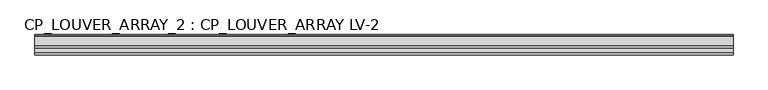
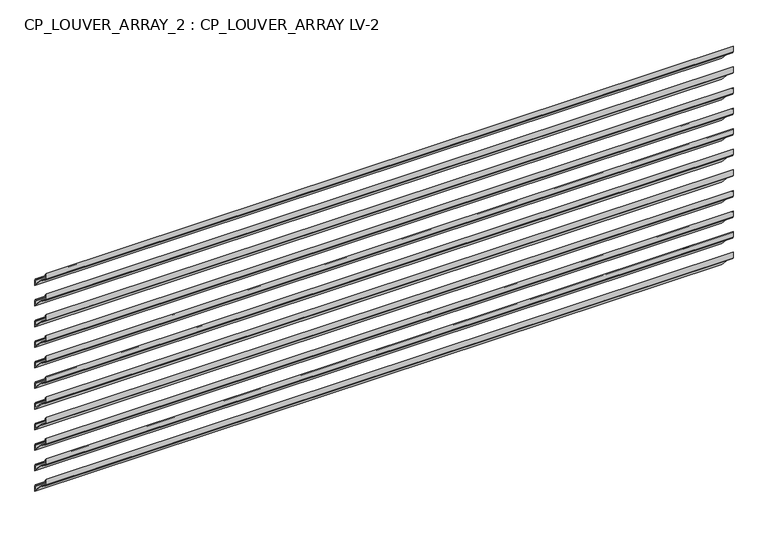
"""IFC4 building model written with IfcOpenShell, lengths in millimetres: plate geometry, CP_LOUVER_ARRAY_2 : CP_LOUVER_ARRAY LV-2."""

from ifc_helpers import new_model, si_unit, origin, place, context, project, spatial, faceted_brep, source, transform, mapped, element, save


def cp_louver_array_2_cp_louver_array_lv_2_2aad383c(model_context):
    return source(origin(), model_context, "Body", "Brep", [
        faceted_brep([(800.5016712, -96.3393096, 549.1190525), (800.5016712, -69.85, 520.7127457), (800.5016712, -69.85, 534.5844296), (800.5016712, -71.4632993, 537.7754075), (800.5016712, -73.025, 538.925084), (800.5016712, -73.025, 537.0326554), (800.5016712, -71.374, 534.5844296), (800.5016712, -71.374, 524.5816451), (800.5016712, -94.5749864, 549.4506311), (800.5016712, -99.9681804, 553.3028259), (800.5016712, -113.6250477, 562.9600681), (800.5016712, -114.6556, 564.9509873), (800.5016712, -114.6556, 574.9060452), (800.5016712, -111.4806, 571.5012746), (800.5016712, -111.4806, 573.735884), (800.5016712, -116.1796, 578.7749446), (800.5016712, -116.1796, 564.9509873), (800.5016712, -114.5049525, 561.7157436), (800.5016712, -100.8480853, 552.0585014), (-800.5016712, -96.3393096, 549.1190525), (-800.5016712, -100.8480853, 552.0585014), (-800.5016712, -114.5049525, 561.7157436), (-800.5016712, -116.1796, 564.9509873), (-800.5016712, -116.1796, 578.7749446), (-800.5016712, -111.4806, 573.735884), (-800.5016712, -111.4806, 571.5012746), (-800.5016712, -114.6556, 574.9060452), (-800.5016712, -114.6556, 564.9509873), (-800.5016712, -113.6250477, 562.9600681), (-800.5016712, -99.9681804, 553.3028259), (-800.5016712, -94.5749864, 549.4506311), (-800.5016712, -71.3542993, 524.6000536), (-800.5016712, -71.374, 534.5844296), (-800.5016712, -73.025, 537.0326554), (-800.5016712, -73.025, 538.925084), (-800.5016712, -71.4632993, 537.7754075), (-800.5016712, -69.85, 534.5844296), (-800.5016712, -69.85, 520.7127457)], [[[0, 1, 2, 3, 4, 5, 6, 7, 8, 9, 10, 11, 12, 13, 14, 15, 16, 17, 18]], [[19, 20, 21, 22, 23, 24, 25, 26, 27, 28, 29, 30, 31, 32, 33, 34, 35, 36, 37]], [[1, 0, 19, 37]], [[2, 1, 37, 36]], [[3, 2, 36, 35]], [[4, 3, 35, 34]], [[5, 4, 34, 33]], [[6, 5, 33, 32]], [[7, 6, 32, 31]], [[7, 31, 30, 8]], [[9, 8, 30, 29]], [[10, 9, 29, 28]], [[11, 10, 28, 27]], [[12, 11, 27, 26]], [[13, 12, 26, 25]], [[14, 13, 25, 24]], [[15, 14, 24, 23]], [[16, 15, 23, 22]], [[17, 16, 22, 21]], [[18, 17, 21, 20]], [[0, 18, 20, 19]]]),
        faceted_brep([(800.5016712, -96.3393096, 498.3177779), (800.5016712, -69.85, 469.9114711), (800.5016712, -69.85, 483.7831551), (800.5016712, -71.4632993, 486.9741329), (800.5016712, -73.025, 488.1238094), (800.5016712, -73.025, 486.2313808), (800.5016712, -71.374, 483.7831551), (800.5016712, -71.374, 473.7803705), (800.5016712, -94.5749864, 498.6493565), (800.5016712, -99.9681804, 502.5015513), (800.5016712, -113.6250477, 512.1587935), (800.5016712, -114.6556, 514.1497128), (800.5016712, -114.6556, 524.1047707), (800.5016712, -111.4806, 520.7), (800.5016712, -111.4806, 522.9346095), (800.5016712, -116.1796, 527.97367), (800.5016712, -116.1796, 514.1497128), (800.5016712, -114.5049525, 510.914469), (800.5016712, -100.8480853, 501.2572268), (-800.5016712, -96.3393096, 498.3177779), (-800.5016712, -100.8480853, 501.2572268), (-800.5016712, -114.5049525, 510.914469), (-800.5016712, -116.1796, 514.1497128), (-800.5016712, -116.1796, 527.97367), (-800.5016712, -111.4806, 522.9346095), (-800.5016712, -111.4806, 520.7), (-800.5016712, -114.6556, 524.1047707), (-800.5016712, -114.6556, 514.1497128), (-800.5016712, -113.6250477, 512.1587935), (-800.5016712, -99.9681804, 502.5015513), (-800.5016712, -94.5749864, 498.6493565), (-800.5016712, -71.3542993, 473.798779), (-800.5016712, -71.374, 483.7831551), (-800.5016712, -73.025, 486.2313808), (-800.5016712, -73.025, 488.1238094), (-800.5016712, -71.4632993, 486.9741329), (-800.5016712, -69.85, 483.7831551), (-800.5016712, -69.85, 469.9114711)], [[[0, 1, 2, 3, 4, 5, 6, 7, 8, 9, 10, 11, 12, 13, 14, 15, 16, 17, 18]], [[19, 20, 21, 22, 23, 24, 25, 26, 27, 28, 29, 30, 31, 32, 33, 34, 35, 36, 37]], [[1, 0, 19, 37]], [[2, 1, 37, 36]], [[3, 2, 36, 35]], [[4, 3, 35, 34]], [[5, 4, 34, 33]], [[6, 5, 33, 32]], [[7, 6, 32, 31]], [[7, 31, 30, 8]], [[9, 8, 30, 29]], [[10, 9, 29, 28]], [[11, 10, 28, 27]], [[12, 11, 27, 26]], [[13, 12, 26, 25]], [[14, 13, 25, 24]], [[15, 14, 24, 23]], [[16, 15, 23, 22]], [[17, 16, 22, 21]], [[18, 17, 21, 20]], [[0, 18, 20, 19]]]),
        faceted_brep([(800.5016712, -96.3393096, 447.5165033), (800.5016712, -69.85, 419.1101965), (800.5016712, -69.85, 432.9818805), (800.5016712, -71.4632993, 436.1728583), (800.5016712, -73.025, 437.3225348), (800.5016712, -73.025, 435.4301063), (800.5016712, -71.374, 432.9818805), (800.5016712, -71.374, 422.9790959), (800.5016712, -94.5749864, 447.8480819), (800.5016712, -99.9681804, 451.7002768), (800.5016712, -113.6250477, 461.357519), (800.5016712, -114.6556, 463.3484382), (800.5016712, -114.6556, 473.3034961), (800.5016712, -111.4806, 469.8987254), (800.5016712, -111.4806, 472.1333349), (800.5016712, -116.1796, 477.1723955), (800.5016712, -116.1796, 463.3484382), (800.5016712, -114.5049525, 460.1131944), (800.5016712, -100.8480853, 450.4559523), (-800.5016712, -96.3393096, 447.5165033), (-800.5016712, -100.8480853, 450.4559523), (-800.5016712, -114.5049525, 460.1131944), (-800.5016712, -116.1796, 463.3484382), (-800.5016712, -116.1796, 477.1723955), (-800.5016712, -111.4806, 472.1333349), (-800.5016712, -111.4806, 469.8987254), (-800.5016712, -114.6556, 473.3034961), (-800.5016712, -114.6556, 463.3484382), (-800.5016712, -113.6250477, 461.357519), (-800.5016712, -99.9681804, 451.7002768), (-800.5016712, -94.5749864, 447.8480819), (-800.5016712, -71.3542993, 422.9975045), (-800.5016712, -71.374, 432.9818805), (-800.5016712, -73.025, 435.4301063), (-800.5016712, -73.025, 437.3225348), (-800.5016712, -71.4632993, 436.1728583), (-800.5016712, -69.85, 432.9818805), (-800.5016712, -69.85, 419.1101965)], [[[0, 1, 2, 3, 4, 5, 6, 7, 8, 9, 10, 11, 12, 13, 14, 15, 16, 17, 18]], [[19, 20, 21, 22, 23, 24, 25, 26, 27, 28, 29, 30, 31, 32, 33, 34, 35, 36, 37]], [[1, 0, 19, 37]], [[2, 1, 37, 36]], [[3, 2, 36, 35]], [[4, 3, 35, 34]], [[5, 4, 34, 33]], [[6, 5, 33, 32]], [[7, 6, 32, 31]], [[7, 31, 30, 8]], [[9, 8, 30, 29]], [[10, 9, 29, 28]], [[11, 10, 28, 27]], [[12, 11, 27, 26]], [[13, 12, 26, 25]], [[14, 13, 25, 24]], [[15, 14, 24, 23]], [[16, 15, 23, 22]], [[17, 16, 22, 21]], [[18, 17, 21, 20]], [[0, 18, 20, 19]]]),
        faceted_brep([(800.5016712, -96.3393096, 396.7152288), (800.5016712, -69.85, 368.308922), (800.5016712, -69.85, 382.1806059), (800.5016712, -71.4632993, 385.3715838), (800.5016712, -73.025, 386.5212603), (800.5016712, -73.025, 384.6288317), (800.5016712, -71.374, 382.1806059), (800.5016712, -71.374, 372.1778214), (800.5016712, -94.5749864, 397.0468074), (800.5016712, -99.9681804, 400.8990022), (800.5016712, -113.6250477, 410.5562444), (800.5016712, -114.6556, 412.5471636), (800.5016712, -114.6556, 422.5022215), (800.5016712, -111.4806, 419.0974509), (800.5016712, -111.4806, 421.3320603), (800.5016712, -116.1796, 426.3711209), (800.5016712, -116.1796, 412.5471636), (800.5016712, -114.5049525, 409.3119199), (800.5016712, -100.8480853, 399.6546777), (-800.5016712, -96.3393096, 396.7152288), (-800.5016712, -100.8480853, 399.6546777), (-800.5016712, -114.5049525, 409.3119199), (-800.5016712, -116.1796, 412.5471636), (-800.5016712, -116.1796, 426.3711209), (-800.5016712, -111.4806, 421.3320603), (-800.5016712, -111.4806, 419.0974509), (-800.5016712, -114.6556, 422.5022215), (-800.5016712, -114.6556, 412.5471636), (-800.5016712, -113.6250477, 410.5562444), (-800.5016712, -99.9681804, 400.8990022), (-800.5016712, -94.5749864, 397.0468074), (-800.5016712, -71.3542993, 372.1962299), (-800.5016712, -71.374, 382.1806059), (-800.5016712, -73.025, 384.6288317), (-800.5016712, -73.025, 386.5212603), (-800.5016712, -71.4632993, 385.3715838), (-800.5016712, -69.85, 382.1806059), (-800.5016712, -69.85, 368.308922)], [[[0, 1, 2, 3, 4, 5, 6, 7, 8, 9, 10, 11, 12, 13, 14, 15, 16, 17, 18]], [[19, 20, 21, 22, 23, 24, 25, 26, 27, 28, 29, 30, 31, 32, 33, 34, 35, 36, 37]], [[1, 0, 19, 37]], [[2, 1, 37, 36]], [[3, 2, 36, 35]], [[4, 3, 35, 34]], [[5, 4, 34, 33]], [[6, 5, 33, 32]], [[7, 6, 32, 31]], [[7, 31, 30, 8]], [[9, 8, 30, 29]], [[10, 9, 29, 28]], [[11, 10, 28, 27]], [[12, 11, 27, 26]], [[13, 12, 26, 25]], [[14, 13, 25, 24]], [[15, 14, 24, 23]], [[16, 15, 23, 22]], [[17, 16, 22, 21]], [[18, 17, 21, 20]], [[0, 18, 20, 19]]]),
        faceted_brep([(800.5016712, -96.3393096, 345.9139542), (800.5016712, -69.85, 317.5076474), (800.5016712, -69.85, 331.3793314), (800.5016712, -71.4632993, 334.5703092), (800.5016712, -73.025, 335.7199857), (800.5016712, -73.025, 333.8275571), (800.5016712, -71.374, 331.3793314), (800.5016712, -71.374, 321.3765468), (800.5016712, -94.5749864, 346.2455328), (800.5016712, -99.9681804, 350.0977276), (800.5016712, -113.6250477, 359.7549698), (800.5016712, -114.6556, 361.7458891), (800.5016712, -114.6556, 371.7009469), (800.5016712, -111.4806, 368.2961763), (800.5016712, -111.4806, 370.5307858), (800.5016712, -116.1796, 375.5698463), (800.5016712, -116.1796, 361.7458891), (800.5016712, -114.5049525, 358.5106453), (800.5016712, -100.8480853, 348.8534031), (-800.5016712, -96.3393096, 345.9139542), (-800.5016712, -100.8480853, 348.8534031), (-800.5016712, -114.5049525, 358.5106453), (-800.5016712, -116.1796, 361.7458891), (-800.5016712, -116.1796, 375.5698463), (-800.5016712, -111.4806, 370.5307858), (-800.5016712, -111.4806, 368.2961763), (-800.5016712, -114.6556, 371.7009469), (-800.5016712, -114.6556, 361.7458891), (-800.5016712, -113.6250477, 359.7549698), (-800.5016712, -99.9681804, 350.0977276), (-800.5016712, -94.5749864, 346.2455328), (-800.5016712, -71.3542993, 321.3949553), (-800.5016712, -71.374, 331.3793314), (-800.5016712, -73.025, 333.8275571), (-800.5016712, -73.025, 335.7199857), (-800.5016712, -71.4632993, 334.5703092), (-800.5016712, -69.85, 331.3793314), (-800.5016712, -69.85, 317.5076474)], [[[0, 1, 2, 3, 4, 5, 6, 7, 8, 9, 10, 11, 12, 13, 14, 15, 16, 17, 18]], [[19, 20, 21, 22, 23, 24, 25, 26, 27, 28, 29, 30, 31, 32, 33, 34, 35, 36, 37]], [[1, 0, 19, 37]], [[2, 1, 37, 36]], [[3, 2, 36, 35]], [[4, 3, 35, 34]], [[5, 4, 34, 33]], [[6, 5, 33, 32]], [[7, 6, 32, 31]], [[7, 31, 30, 8]], [[9, 8, 30, 29]], [[10, 9, 29, 28]], [[11, 10, 28, 27]], [[12, 11, 27, 26]], [[13, 12, 26, 25]], [[14, 13, 25, 24]], [[15, 14, 24, 23]], [[16, 15, 23, 22]], [[17, 16, 22, 21]], [[18, 17, 21, 20]], [[0, 18, 20, 19]]]),
        faceted_brep([(800.5016712, -96.3393096, 295.1126796), (800.5016712, -69.85, 266.7063728), (800.5016712, -69.85, 280.5780568), (800.5016712, -71.4632993, 283.7690346), (800.5016712, -73.025, 284.9187111), (800.5016712, -73.025, 283.0262826), (800.5016712, -71.374, 280.5780568), (800.5016712, -71.374, 270.5752722), (800.5016712, -94.5749864, 295.4442582), (800.5016712, -99.9681804, 299.2964531), (800.5016712, -113.6250477, 308.9536953), (800.5016712, -114.6556, 310.9446145), (800.5016712, -114.6556, 320.8996724), (800.5016712, -111.4806, 317.4949017), (800.5016712, -111.4806, 319.7295112), (800.5016712, -116.1796, 324.7685718), (800.5016712, -116.1796, 310.9446145), (800.5016712, -114.5049525, 307.7093707), (800.5016712, -100.8480853, 298.0521286), (-800.5016712, -96.3393096, 295.1126796), (-800.5016712, -100.8480853, 298.0521286), (-800.5016712, -114.5049525, 307.7093707), (-800.5016712, -116.1796, 310.9446145), (-800.5016712, -116.1796, 324.7685718), (-800.5016712, -111.4806, 319.7295112), (-800.5016712, -111.4806, 317.4949017), (-800.5016712, -114.6556, 320.8996724), (-800.5016712, -114.6556, 310.9446145), (-800.5016712, -113.6250477, 308.9536953), (-800.5016712, -99.9681804, 299.2964531), (-800.5016712, -94.5749864, 295.4442582), (-800.5016712, -71.3542993, 270.5936808), (-800.5016712, -71.374, 280.5780568), (-800.5016712, -73.025, 283.0262826), (-800.5016712, -73.025, 284.9187111), (-800.5016712, -71.4632993, 283.7690346), (-800.5016712, -69.85, 280.5780568), (-800.5016712, -69.85, 266.7063728)], [[[0, 1, 2, 3, 4, 5, 6, 7, 8, 9, 10, 11, 12, 13, 14, 15, 16, 17, 18]], [[19, 20, 21, 22, 23, 24, 25, 26, 27, 28, 29, 30, 31, 32, 33, 34, 35, 36, 37]], [[1, 0, 19, 37]], [[2, 1, 37, 36]], [[3, 2, 36, 35]], [[4, 3, 35, 34]], [[5, 4, 34, 33]], [[6, 5, 33, 32]], [[7, 6, 32, 31]], [[7, 31, 30, 8]], [[9, 8, 30, 29]], [[10, 9, 29, 28]], [[11, 10, 28, 27]], [[12, 11, 27, 26]], [[13, 12, 26, 25]], [[14, 13, 25, 24]], [[15, 14, 24, 23]], [[16, 15, 23, 22]], [[17, 16, 22, 21]], [[18, 17, 21, 20]], [[0, 18, 20, 19]]]),
        faceted_brep([(800.5016712, -96.3393096, 244.3114051), (800.5016712, -69.85, 215.9050983), (800.5016712, -69.85, 229.7767822), (800.5016712, -71.4632993, 232.9677601), (800.5016712, -73.025, 234.1174365), (800.5016712, -73.025, 232.225008), (800.5016712, -71.374, 229.7767822), (800.5016712, -71.374, 219.7739977), (800.5016712, -94.5749864, 244.6429837), (800.5016712, -99.9681804, 248.4951785), (800.5016712, -113.6250477, 258.1524207), (800.5016712, -114.6556, 260.1433399), (800.5016712, -114.6556, 270.0983978), (800.5016712, -111.4806, 266.6936272), (800.5016712, -111.4806, 268.9282366), (800.5016712, -116.1796, 273.9672972), (800.5016712, -116.1796, 260.1433399), (800.5016712, -114.5049525, 256.9080962), (800.5016712, -100.8480853, 247.250854), (-800.5016712, -96.3393096, 244.3114051), (-800.5016712, -100.8480853, 247.250854), (-800.5016712, -114.5049525, 256.9080962), (-800.5016712, -116.1796, 260.1433399), (-800.5016712, -116.1796, 273.9672972), (-800.5016712, -111.4806, 268.9282366), (-800.5016712, -111.4806, 266.6936272), (-800.5016712, -114.6556, 270.0983978), (-800.5016712, -114.6556, 260.1433399), (-800.5016712, -113.6250477, 258.1524207), (-800.5016712, -99.9681804, 248.4951785), (-800.5016712, -94.5749864, 244.6429837), (-800.5016712, -71.3542993, 219.7924062), (-800.5016712, -71.374, 229.7767822), (-800.5016712, -73.025, 232.225008), (-800.5016712, -73.025, 234.1174365), (-800.5016712, -71.4632993, 232.9677601), (-800.5016712, -69.85, 229.7767822), (-800.5016712, -69.85, 215.9050983)], [[[0, 1, 2, 3, 4, 5, 6, 7, 8, 9, 10, 11, 12, 13, 14, 15, 16, 17, 18]], [[19, 20, 21, 22, 23, 24, 25, 26, 27, 28, 29, 30, 31, 32, 33, 34, 35, 36, 37]], [[1, 0, 19, 37]], [[2, 1, 37, 36]], [[3, 2, 36, 35]], [[4, 3, 35, 34]], [[5, 4, 34, 33]], [[6, 5, 33, 32]], [[7, 6, 32, 31]], [[7, 31, 30, 8]], [[9, 8, 30, 29]], [[10, 9, 29, 28]], [[11, 10, 28, 27]], [[12, 11, 27, 26]], [[13, 12, 26, 25]], [[14, 13, 25, 24]], [[15, 14, 24, 23]], [[16, 15, 23, 22]], [[17, 16, 22, 21]], [[18, 17, 21, 20]], [[0, 18, 20, 19]]]),
        faceted_brep([(800.5016712, -96.3393096, 193.5101305), (800.5016712, -69.85, 165.1038237), (800.5016712, -69.85, 178.9755076), (800.5016712, -71.4632993, 182.1664855), (800.5016712, -73.025, 183.316162), (800.5016712, -73.025, 181.4237334), (800.5016712, -71.374, 178.9755076), (800.5016712, -71.374, 168.9727231), (800.5016712, -94.5749864, 193.8417091), (800.5016712, -99.9681804, 197.6939039), (800.5016712, -113.6250477, 207.3511461), (800.5016712, -114.6556, 209.3420654), (800.5016712, -114.6556, 219.2971232), (800.5016712, -111.4806, 215.8923526), (800.5016712, -111.4806, 218.1269621), (800.5016712, -116.1796, 223.1660226), (800.5016712, -116.1796, 209.3420654), (800.5016712, -114.5049525, 206.1068216), (800.5016712, -100.8480853, 196.4495794), (-800.5016712, -96.3393096, 193.5101305), (-800.5016712, -100.8480853, 196.4495794), (-800.5016712, -114.5049525, 206.1068216), (-800.5016712, -116.1796, 209.3420654), (-800.5016712, -116.1796, 223.1660226), (-800.5016712, -111.4806, 218.1269621), (-800.5016712, -111.4806, 215.8923526), (-800.5016712, -114.6556, 219.2971232), (-800.5016712, -114.6556, 209.3420654), (-800.5016712, -113.6250477, 207.3511461), (-800.5016712, -99.9681804, 197.6939039), (-800.5016712, -94.5749864, 193.8417091), (-800.5016712, -71.3542993, 168.9911316), (-800.5016712, -71.374, 178.9755076), (-800.5016712, -73.025, 181.4237334), (-800.5016712, -73.025, 183.316162), (-800.5016712, -71.4632993, 182.1664855), (-800.5016712, -69.85, 178.9755076), (-800.5016712, -69.85, 165.1038237)], [[[0, 1, 2, 3, 4, 5, 6, 7, 8, 9, 10, 11, 12, 13, 14, 15, 16, 17, 18]], [[19, 20, 21, 22, 23, 24, 25, 26, 27, 28, 29, 30, 31, 32, 33, 34, 35, 36, 37]], [[1, 0, 19, 37]], [[2, 1, 37, 36]], [[3, 2, 36, 35]], [[4, 3, 35, 34]], [[5, 4, 34, 33]], [[6, 5, 33, 32]], [[7, 6, 32, 31]], [[7, 31, 30, 8]], [[9, 8, 30, 29]], [[10, 9, 29, 28]], [[11, 10, 28, 27]], [[12, 11, 27, 26]], [[13, 12, 26, 25]], [[14, 13, 25, 24]], [[15, 14, 24, 23]], [[16, 15, 23, 22]], [[17, 16, 22, 21]], [[18, 17, 21, 20]], [[0, 18, 20, 19]]]),
        faceted_brep([(800.5016712, -96.3393096, 142.7088559), (800.5016712, -69.85, 114.3025491), (800.5016712, -69.85, 128.1742331), (800.5016712, -71.4632993, 131.3652109), (800.5016712, -73.025, 132.5148874), (800.5016712, -73.025, 130.6224589), (800.5016712, -71.374, 128.1742331), (800.5016712, -71.374, 118.1714485), (800.5016712, -94.5749864, 143.0404345), (800.5016712, -99.9681804, 146.8926294), (800.5016712, -113.6250477, 156.5498716), (800.5016712, -114.6556, 158.5407908), (800.5016712, -114.6556, 168.4958487), (800.5016712, -111.4806, 165.091078), (800.5016712, -111.4806, 167.3256875), (800.5016712, -116.1796, 172.3647481), (800.5016712, -116.1796, 158.5407908), (800.5016712, -114.5049525, 155.305547), (800.5016712, -100.8480853, 145.6483048), (-800.5016712, -96.3393096, 142.7088559), (-800.5016712, -100.8480853, 145.6483048), (-800.5016712, -114.5049525, 155.305547), (-800.5016712, -116.1796, 158.5407908), (-800.5016712, -116.1796, 172.3647481), (-800.5016712, -111.4806, 167.3256875), (-800.5016712, -111.4806, 165.091078), (-800.5016712, -114.6556, 168.4958487), (-800.5016712, -114.6556, 158.5407908), (-800.5016712, -113.6250477, 156.5498716), (-800.5016712, -99.9681804, 146.8926294), (-800.5016712, -94.5749864, 143.0404345), (-800.5016712, -71.3542993, 118.1898571), (-800.5016712, -71.374, 128.1742331), (-800.5016712, -73.025, 130.6224589), (-800.5016712, -73.025, 132.5148874), (-800.5016712, -71.4632993, 131.3652109), (-800.5016712, -69.85, 128.1742331), (-800.5016712, -69.85, 114.3025491)], [[[0, 1, 2, 3, 4, 5, 6, 7, 8, 9, 10, 11, 12, 13, 14, 15, 16, 17, 18]], [[19, 20, 21, 22, 23, 24, 25, 26, 27, 28, 29, 30, 31, 32, 33, 34, 35, 36, 37]], [[1, 0, 19, 37]], [[2, 1, 37, 36]], [[3, 2, 36, 35]], [[4, 3, 35, 34]], [[5, 4, 34, 33]], [[6, 5, 33, 32]], [[7, 6, 32, 31]], [[7, 31, 30, 8]], [[9, 8, 30, 29]], [[10, 9, 29, 28]], [[11, 10, 28, 27]], [[12, 11, 27, 26]], [[13, 12, 26, 25]], [[14, 13, 25, 24]], [[15, 14, 24, 23]], [[16, 15, 23, 22]], [[17, 16, 22, 21]], [[18, 17, 21, 20]], [[0, 18, 20, 19]]]),
        faceted_brep([(800.5016712, -96.3393096, 91.9075814), (800.5016712, -69.85, 63.5012746), (800.5016712, -69.85, 77.3729585), (800.5016712, -71.4632993, 80.5639364), (800.5016712, -73.025, 81.7136128), (800.5016712, -73.025, 79.8211843), (800.5016712, -71.374, 77.3729585), (800.5016712, -71.374, 67.370174), (800.5016712, -94.5749864, 92.23916), (800.5016712, -99.9681804, 96.0913548), (800.5016712, -113.6250477, 105.748597), (800.5016712, -114.6556, 107.7395162), (800.5016712, -114.6556, 117.6945741), (800.5016712, -111.4806, 114.2898035), (800.5016712, -111.4806, 116.5244129), (800.5016712, -116.1796, 121.5634735), (800.5016712, -116.1796, 107.7395162), (800.5016712, -114.5049525, 104.5042725), (800.5016712, -100.8480853, 94.8470303), (-800.5016712, -96.3393096, 91.9075814), (-800.5016712, -100.8480853, 94.8470303), (-800.5016712, -114.5049525, 104.5042725), (-800.5016712, -116.1796, 107.7395162), (-800.5016712, -116.1796, 121.5634735), (-800.5016712, -111.4806, 116.5244129), (-800.5016712, -111.4806, 114.2898035), (-800.5016712, -114.6556, 117.6945741), (-800.5016712, -114.6556, 107.7395162), (-800.5016712, -113.6250477, 105.748597), (-800.5016712, -99.9681804, 96.0913548), (-800.5016712, -94.5749864, 92.23916), (-800.5016712, -71.3542993, 67.3885825), (-800.5016712, -71.374, 77.3729585), (-800.5016712, -73.025, 79.8211843), (-800.5016712, -73.025, 81.7136128), (-800.5016712, -71.4632993, 80.5639364), (-800.5016712, -69.85, 77.3729585), (-800.5016712, -69.85, 63.5012746)], [[[0, 1, 2, 3, 4, 5, 6, 7, 8, 9, 10, 11, 12, 13, 14, 15, 16, 17, 18]], [[19, 20, 21, 22, 23, 24, 25, 26, 27, 28, 29, 30, 31, 32, 33, 34, 35, 36, 37]], [[1, 0, 19, 37]], [[2, 1, 37, 36]], [[3, 2, 36, 35]], [[4, 3, 35, 34]], [[5, 4, 34, 33]], [[6, 5, 33, 32]], [[7, 6, 32, 31]], [[7, 31, 30, 8]], [[9, 8, 30, 29]], [[10, 9, 29, 28]], [[11, 10, 28, 27]], [[12, 11, 27, 26]], [[13, 12, 26, 25]], [[14, 13, 25, 24]], [[15, 14, 24, 23]], [[16, 15, 23, 22]], [[17, 16, 22, 21]], [[18, 17, 21, 20]], [[0, 18, 20, 19]]]),
        faceted_brep([(800.5016712, -96.3393096, 41.1063068), (800.5016712, -69.85, 12.7), (800.5016712, -69.85, 26.5716839), (800.5016712, -71.4632993, 29.7626618), (800.5016712, -73.025, 30.9123383), (800.5016712, -73.025, 29.0199097), (800.5016712, -71.374, 26.5716839), (800.5016712, -71.374, 16.5688994), (800.5016712, -94.5749864, 41.4378854), (800.5016712, -99.9681804, 45.2900802), (800.5016712, -113.6250477, 54.9473224), (800.5016712, -114.6556, 56.9382417), (800.5016712, -114.6556, 66.8932995), (800.5016712, -111.4806, 63.4885289), (800.5016712, -111.4806, 65.7231384), (800.5016712, -116.1796, 70.7621989), (800.5016712, -116.1796, 56.9382417), (800.5016712, -114.5049525, 53.7029979), (800.5016712, -100.8480853, 44.0457557), (-800.5016712, -96.3393096, 41.1063068), (-800.5016712, -100.8480853, 44.0457557), (-800.5016712, -114.5049525, 53.7029979), (-800.5016712, -116.1796, 56.9382417), (-800.5016712, -116.1796, 70.7621989), (-800.5016712, -111.4806, 65.7231384), (-800.5016712, -111.4806, 63.4885289), (-800.5016712, -114.6556, 66.8932995), (-800.5016712, -114.6556, 56.9382417), (-800.5016712, -113.6250477, 54.9473224), (-800.5016712, -99.9681804, 45.2900802), (-800.5016712, -94.5749864, 41.4378854), (-800.5016712, -71.3542993, 16.5873079), (-800.5016712, -71.374, 26.5716839), (-800.5016712, -73.025, 29.0199097), (-800.5016712, -73.025, 30.9123383), (-800.5016712, -71.4632993, 29.7626618), (-800.5016712, -69.85, 26.5716839), (-800.5016712, -69.85, 12.7)], [[[0, 1, 2, 3, 4, 5, 6, 7, 8, 9, 10, 11, 12, 13, 14, 15, 16, 17, 18]], [[19, 20, 21, 22, 23, 24, 25, 26, 27, 28, 29, 30, 31, 32, 33, 34, 35, 36, 37]], [[1, 0, 19, 37]], [[2, 1, 37, 36]], [[3, 2, 36, 35]], [[4, 3, 35, 34]], [[5, 4, 34, 33]], [[6, 5, 33, 32]], [[7, 6, 32, 31]], [[7, 31, 30, 8]], [[9, 8, 30, 29]], [[10, 9, 29, 28]], [[11, 10, 28, 27]], [[12, 11, 27, 26]], [[13, 12, 26, 25]], [[14, 13, 25, 24]], [[15, 14, 24, 23]], [[16, 15, 23, 22]], [[17, 16, 22, 21]], [[18, 17, 21, 20]], [[0, 18, 20, 19]]]),
    ])


if __name__ == "__main__":
    model = new_model("IFC4")
    model_context = context("Model", 3, world=origin())
    ifc_project = project(units=[si_unit("LENGTHUNIT", "METRE", prefix="MILLI")], contexts=[model_context])
    site = spatial("IfcSite", under=ifc_project)
    building = spatial("IfcBuilding", under=site)
    placement = place(None, origin())
    cp_louver_array_2_cp_louver_array_lv_2_shape = cp_louver_array_2_cp_louver_array_lv_2_2aad383c(model_context)
    element("IfcPlate", 1, ObjectType="CP_LOUVER_ARRAY_2 : CP_LOUVER_ARRAY LV-2", at=placement, inside=building, context=model_context, shape_type="MappedRepresentation", body=[
        mapped(cp_louver_array_2_cp_louver_array_lv_2_shape, transform((0.0, 0.0, 0.0), x_axis=(1.0, 0.0, 0.0), y_axis=(0.0, 1.0, 0.0), z_axis=(0.0, 0.0, 1.0))),
    ])
    save(model, "model.ifc")
